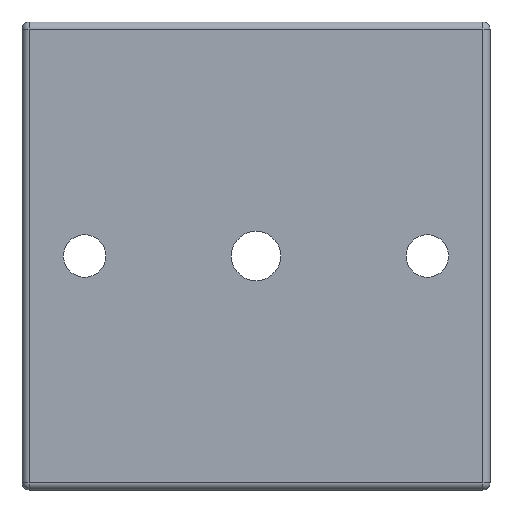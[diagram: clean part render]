
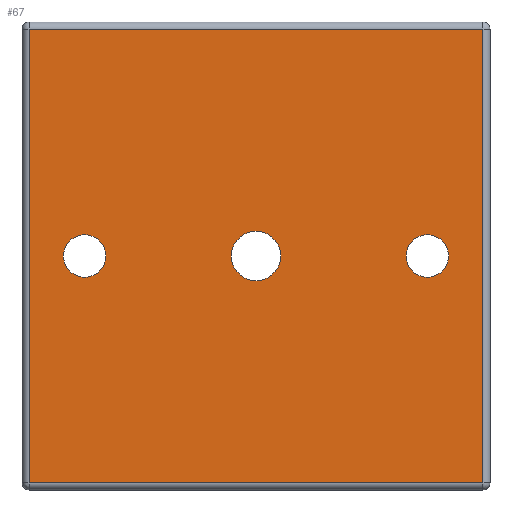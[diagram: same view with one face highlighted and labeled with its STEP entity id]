
A CAD part, front view. The second image highlights one B-rep face of the part: STEP entity #67.
In plain terms, the highlighted planar face has unit normal (0, -1, 0).
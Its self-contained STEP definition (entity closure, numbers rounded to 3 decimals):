
#67=ADVANCED_FACE('',(#422,#424,#426,#428),#430,.T.);
#422=FACE_BOUND('',#423,.T.);
#423=EDGE_LOOP('',(#711,#712,#713,#714));
#424=FACE_BOUND('',#425,.T.);
#425=EDGE_LOOP('',(#715));
#426=FACE_BOUND('',#427,.T.);
#427=EDGE_LOOP('',(#716));
#428=FACE_BOUND('',#429,.T.);
#429=EDGE_LOOP('',(#717));
#430=PLANE('',#431);
#431=AXIS2_PLACEMENT_3D('',#432,#433,#434);
#432=CARTESIAN_POINT('',(0.,0.,0.));
#433=DIRECTION('',(-0.,-1.,-0.));
#434=DIRECTION('',(-1.,0.,0.));
#711=ORIENTED_EDGE('',*,*,#869,.T.);
#712=ORIENTED_EDGE('',*,*,#870,.T.);
#713=ORIENTED_EDGE('',*,*,#871,.T.);
#714=ORIENTED_EDGE('',*,*,#872,.T.);
#715=ORIENTED_EDGE('',*,*,#873,.T.);
#716=ORIENTED_EDGE('',*,*,#874,.T.);
#717=ORIENTED_EDGE('',*,*,#875,.T.);
#869=EDGE_CURVE('',#955,#956,#957,.T.);
#870=EDGE_CURVE('',#956,#958,#959,.T.);
#871=EDGE_CURVE('',#958,#960,#961,.T.);
#872=EDGE_CURVE('',#960,#955,#962,.T.);
#873=EDGE_CURVE('',#963,#963,#964,.F.);
#874=EDGE_CURVE('',#965,#965,#966,.F.);
#875=EDGE_CURVE('',#967,#967,#968,.F.);
#955=VERTEX_POINT('',#1098);
#956=VERTEX_POINT('',#1099);
#957=LINE('',#1100,#1101);
#958=VERTEX_POINT('',#1103);
#959=LINE('',#1104,#1105);
#960=VERTEX_POINT('',#1107);
#961=LINE('',#1108,#1109);
#962=LINE('',#1111,#1112);
#963=VERTEX_POINT('',#1114);
#964=CIRCLE('',#1115,3.);
#965=VERTEX_POINT('',#1119);
#966=CIRCLE('',#1120,3.);
#967=VERTEX_POINT('',#1124);
#968=CIRCLE('',#1125,3.5);
#1098=CARTESIAN_POINT('',(-32.,0.,32.));
#1099=CARTESIAN_POINT('',(-32.,0.,-32.));
#1100=CARTESIAN_POINT('',(-32.,0.,32.));
#1101=VECTOR('',#1102,1.);
#1102=DIRECTION('',(0.,0.,-1.));
#1103=CARTESIAN_POINT('',(32.,0.,-32.));
#1104=CARTESIAN_POINT('',(-32.,0.,-32.));
#1105=VECTOR('',#1106,1.);
#1106=DIRECTION('',(1.,0.,0.));
#1107=CARTESIAN_POINT('',(32.,0.,32.));
#1108=CARTESIAN_POINT('',(32.,0.,-32.));
#1109=VECTOR('',#1110,1.);
#1110=DIRECTION('',(0.,0.,1.));
#1111=CARTESIAN_POINT('',(32.,0.,32.));
#1112=VECTOR('',#1113,1.);
#1113=DIRECTION('',(-1.,0.,0.));
#1114=CARTESIAN_POINT('',(-21.165,0.,0.));
#1115=AXIS2_PLACEMENT_3D('',#1116,#1117,#1118);
#1116=CARTESIAN_POINT('',(-24.165,0.,0.));
#1117=DIRECTION('',(-0.,-1.,-0.));
#1118=DIRECTION('',(1.,0.,-0.));
#1119=CARTESIAN_POINT('',(21.165,0.,0.));
#1120=AXIS2_PLACEMENT_3D('',#1121,#1122,#1123);
#1121=CARTESIAN_POINT('',(24.165,0.,0.));
#1122=DIRECTION('',(-0.,-1.,-0.));
#1123=DIRECTION('',(-1.,0.,0.));
#1124=CARTESIAN_POINT('',(3.5,0.,0.));
#1125=AXIS2_PLACEMENT_3D('',#1126,#1127,#1128);
#1126=CARTESIAN_POINT('',(0.,0.,0.));
#1127=DIRECTION('',(-0.,-1.,-0.));
#1128=DIRECTION('',(1.,0.,-0.));
